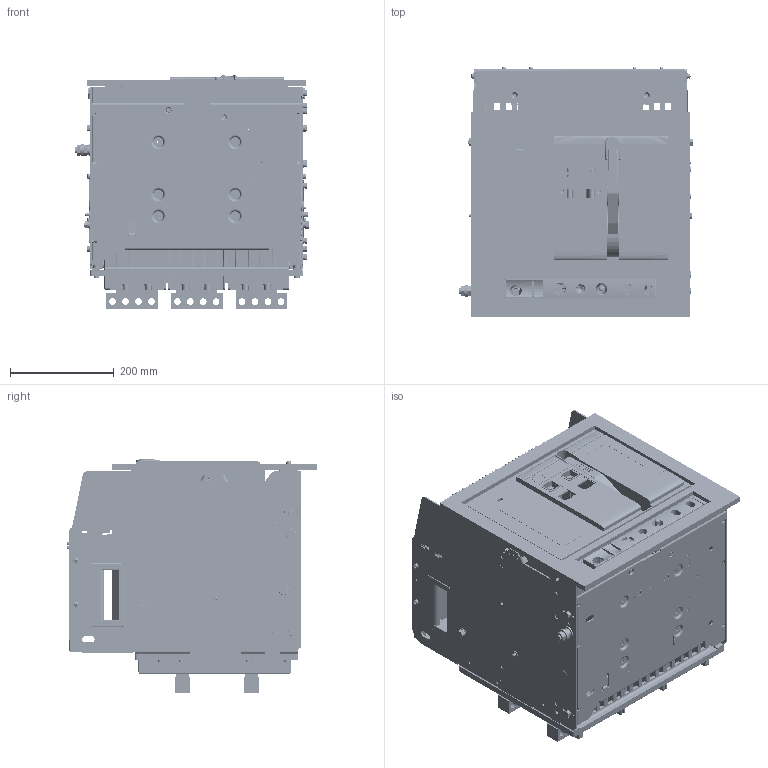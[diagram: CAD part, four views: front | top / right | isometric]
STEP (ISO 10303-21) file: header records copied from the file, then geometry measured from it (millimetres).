
FILE_DESCRIPTION (( 'STEP AP214' ), '1' );
FILE_NAME ('TGW1N-4000 D 3P 2900-3200.STEP', '2026-06-04T10:12:54', ( '' ), ( '' ), 'SwSTEP 2.0', 'SolidWorks 2024', '' );
FILE_SCHEMA (( 'AUTOMOTIVE_DESIGN' ));
Length unit declared in the file: millimetre
Products named in the file (36): 8TZD_580_1083_AF1_1.stp; FHZ.stp; TGW1N-4000 D 3P 2900-3200; GB_T819_1-M6X16_1.stp; 8TZD_001_1005_1.stp; 8TZD_020_1016_1.stp; 2TZD_257_6012_ASM_1_ASM.stp; MZ.stp; 111111111_1.stp; TENGEN_Рамка_3200-6300_Drawer; GB_T93-8_1.stp; 8TZD_580_1082_AF3_1.stp; CTZ.stp; 5TZD_020_1044_AF0_ASM_1_ASM.stp; GB_T93-6_1.stp; 5TZD_260_1003_AF1_ASM_1_ASM.stp; 6TZD_229_6011_AF0_ASM_1_ASM.stp; 8TZD_156_6064.stp; GB_T70_1-M6X20_1.stp; 8TZD_087_6008.stp; 8TZD_580_1082_AF2_1.stp; GB_T809-M6X12-A_1.stp; 8TZD_580_1082_AF0_1.stp; 8TZD_580_1082_AF1_1.stp; 5TZD_558_1012_1.stp; GB_T97_1_6_1.stp; GB_T70_1-M8X25_1.stp; 5TZD_020_1043_ASM_1_ASM.stp; 5TZD_260_1003_AF0_ASM_1_ASM.stp; ASM0002_ASM_1.stp; TENGEN_TGW1N-4000_3p_2500A_D (2).stp; TENGEN_Рамка_3200-6300_Drawer.stp; 8TZD_311_1031_1.stp; GB_T97_1_8_1.stp; 8TZD_580_1083_AF0_1.stp; 8TZD_580_1088_1.stp
Assembly tree (178 placements, depth 7):
  TGW1N-4000 D 3P 2900-3200
    TENGEN_TGW1N-4000_3p_2500A_D (2).stp
      2TZD_257_6012_ASM_1_ASM.stp
        6TZD_229_6011_AF0_ASM_1_ASM.stp
          5TZD_020_1044_AF0_ASM_1_ASM.stp
            5TZD_020_1043_ASM_1_ASM.stp
              8TZD_020_1016_1.stp
              GB_T809-M6X12-A_1.stp  x24
            5TZD_260_1003_AF0_ASM_1_ASM.stp
              8TZD_001_1005_1.stp
              8TZD_311_1031_1.stp
            5TZD_260_1003_AF1_ASM_1_ASM.stp
              8TZD_001_1005_1.stp
              8TZD_311_1031_1.stp
            8TZD_580_1088_1.stp  x6
            GB_T819_1-M6X16_1.stp  x24
            8TZD_580_1083_AF0_1.stp
            8TZD_580_1082_AF0_1.stp
            8TZD_580_1082_AF1_1.stp
            8TZD_580_1083_AF1_1.stp
            8TZD_580_1082_AF2_1.stp
            8TZD_580_1082_AF3_1.stp
            GB_T97_1_8_1.stp  x24
            GB_T93-8_1.stp  x24
            GB_T70_1-M8X25_1.stp  x24
          GB_T97_1_6_1.stp  x8
          GB_T93-6_1.stp  x8
          GB_T70_1-M6X20_1.stp  x8
        5TZD_558_1012_1.stp
        ASM0002_ASM_1.stp
        111111111_1.stp
      CTZ.stp
      MZ.stp
      FHZ.stp
    TENGEN_Рамка_3200-6300_Drawer
      TENGEN_Рамка_3200-6300_Drawer.stp
        8TZD_087_6008.stp
        8TZD_156_6064.stp
Bounding box: 452.15 x 482 x 451 mm (x, y, z)
Volume: 3297871.5 mm3; surface area: 4598684.5 mm2
Topology: 80 solids, 387 shells, 20001 faces, 52493 edges, 33134 vertices
Faces by surface type: plane 10816, cylinder 6332, cone 1547, bspline 603, torus 553, sphere 150
Entity records: 640628 total; most frequent: CARTESIAN_POINT 230798, ORIENTED_EDGE 88892, DIRECTION 79408, EDGE_CURVE 44607, VERTEX_POINT 28406, AXIS2_PLACEMENT_3D 26580, VECTOR 26248, LINE 26248
